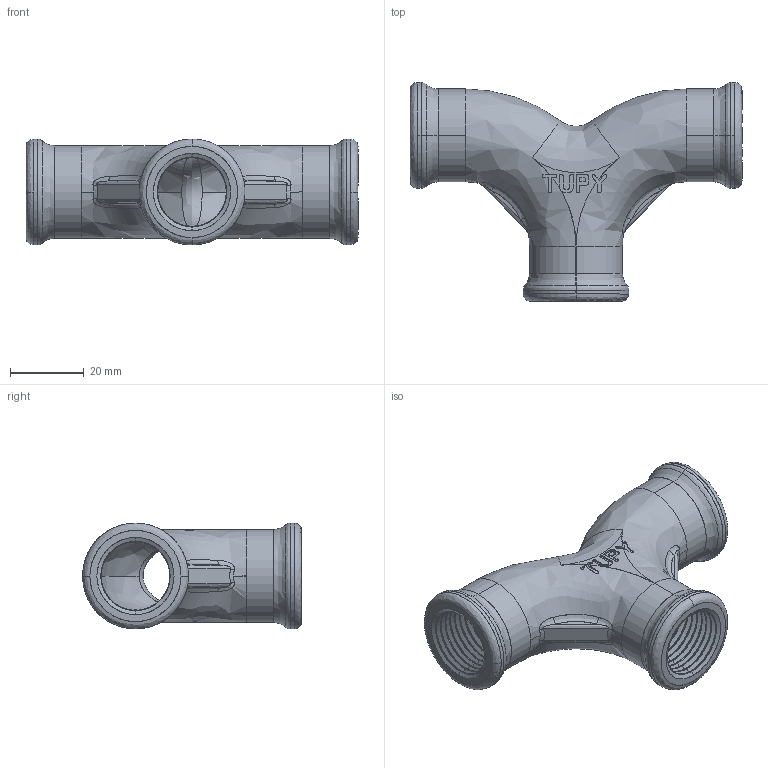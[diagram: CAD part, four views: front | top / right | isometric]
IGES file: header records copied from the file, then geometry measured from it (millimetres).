
Start section: SolidWorks IGES file using analytic representation for surfaces
Global section: file name: C:\Users\Joel Rosa\Desktop\Tubulação\12-55-OK\12-55-004.IGS; native system: SolidWorks 2011; preprocessor: SolidWorks 2011; author: Joel Rosa; date: 130514.191204; units: millimetre
Bounding box: 90 x 59.35 x 28.7 mm (x, y, z)
Surface area: 19569.3 mm2 (no closed solid volume)
Topology: 0 solids, 0 shells, 406 faces, 2818 edges, 2816 vertices
Faces by surface type: bspline 288, revolution 118
